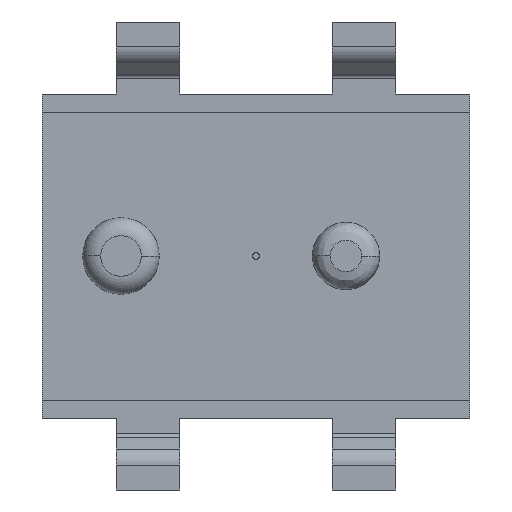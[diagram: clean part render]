
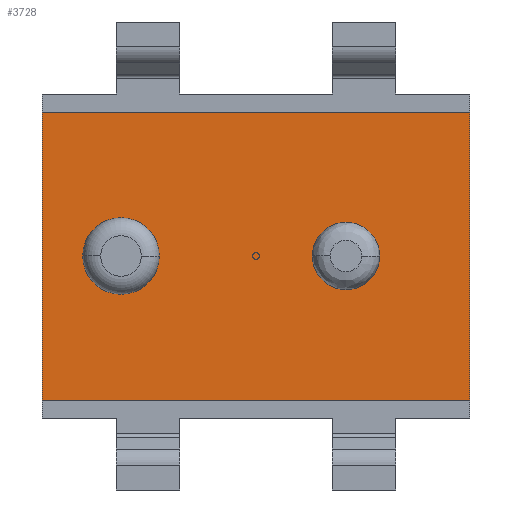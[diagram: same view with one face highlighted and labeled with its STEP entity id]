
A CAD part, front view. The second image highlights one B-rep face of the part: STEP entity #3728.
In plain terms, the highlighted planar face has unit normal (0, -1, 0).
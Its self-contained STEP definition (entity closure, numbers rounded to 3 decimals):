
#1529=DIRECTION('',(1.,0.,0.));
#1530=VECTOR('',#1529,4.75);
#1531=CARTESIAN_POINT('',(-2.375,-2.1,1.6));
#1532=LINE('',#1531,#1530);
#1536=DIRECTION('',(0.,0.,-1.));
#1537=VECTOR('',#1536,3.2);
#1538=CARTESIAN_POINT('',(2.375,-2.1,1.6));
#1539=LINE('',#1538,#1537);
#1543=DIRECTION('',(1.,0.,0.));
#1544=VECTOR('',#1543,4.75);
#1545=CARTESIAN_POINT('',(-2.375,-2.1,-1.6));
#1546=LINE('',#1545,#1544);
#1550=DIRECTION('',(0.,0.,1.));
#1551=VECTOR('',#1550,3.2);
#1552=CARTESIAN_POINT('',(-2.375,-2.1,-1.6));
#1553=LINE('',#1552,#1551);
#1557=CARTESIAN_POINT('',(-1.5,-2.1,0.));
#1558=DIRECTION('',(0.,-1.,0.));
#1559=DIRECTION('',(1.,0.,0.));
#1560=AXIS2_PLACEMENT_3D('',#1557,#1558,#1559);
#1565=CARTESIAN_POINT('',(-1.5,-2.1,0.));
#1566=DIRECTION('',(0.,-1.,0.));
#1567=DIRECTION('',(-1.,0.,0.));
#1568=AXIS2_PLACEMENT_3D('',#1565,#1566,#1567);
#1573=CARTESIAN_POINT('',(1.,-2.1,0.));
#1574=DIRECTION('',(0.,-1.,0.));
#1575=DIRECTION('',(1.,0.,0.));
#1576=AXIS2_PLACEMENT_3D('',#1573,#1574,#1575);
#1581=CARTESIAN_POINT('',(1.,-2.1,0.));
#1582=DIRECTION('',(0.,-1.,0.));
#1583=DIRECTION('',(-1.,0.,0.));
#1584=AXIS2_PLACEMENT_3D('',#1581,#1582,#1583);
#1998=CARTESIAN_POINT('',(-2.375,-2.1,1.6));
#1999=CARTESIAN_POINT('',(2.375,-2.1,1.6));
#2000=VERTEX_POINT('',#1998);
#2001=VERTEX_POINT('',#1999);
#2002=CARTESIAN_POINT('',(-2.375,-2.1,-1.6));
#2003=CARTESIAN_POINT('',(2.375,-2.1,-1.6));
#2004=VERTEX_POINT('',#2002);
#2005=VERTEX_POINT('',#2003);
#2022=CARTESIAN_POINT('',(-1.075,-2.1,0.));
#2023=CARTESIAN_POINT('',(-1.925,-2.1,0.));
#2024=VERTEX_POINT('',#2022);
#2025=VERTEX_POINT('',#2023);
#2026=CARTESIAN_POINT('',(1.375,-2.1,0.));
#2027=CARTESIAN_POINT('',(0.625,-2.1,0.));
#2028=VERTEX_POINT('',#2026);
#2029=VERTEX_POINT('',#2027);
#3703=CARTESIAN_POINT('',(0.,-2.1,0.));
#3704=DIRECTION('',(0.,1.,0.));
#3705=DIRECTION('',(1.,0.,0.));
#3706=AXIS2_PLACEMENT_3D('',#3703,#3704,#3705);
#3707=PLANE('',#3706);
#3709=ORIENTED_EDGE('',*,*,#3708,.T.);
#3710=ORIENTED_EDGE('',*,*,#3682,.T.);
#3711=ORIENTED_EDGE('',*,*,#3694,.F.);
#3713=ORIENTED_EDGE('',*,*,#3712,.T.);
#3714=EDGE_LOOP('',(#3709,#3710,#3711,#3713));
#3715=FACE_OUTER_BOUND('',#3714,.F.);
#3717=ORIENTED_EDGE('',*,*,#3716,.T.);
#3719=ORIENTED_EDGE('',*,*,#3718,.T.);
#3720=EDGE_LOOP('',(#3717,#3719));
#3721=FACE_BOUND('',#3720,.F.);
#3723=ORIENTED_EDGE('',*,*,#3722,.T.);
#3725=ORIENTED_EDGE('',*,*,#3724,.T.);
#3726=EDGE_LOOP('',(#3723,#3725));
#3727=FACE_BOUND('',#3726,.F.);
#1561=CIRCLE('',#1560,0.425);
#1569=CIRCLE('',#1568,0.425);
#1577=CIRCLE('',#1576,0.375);
#1585=CIRCLE('',#1584,0.375);
#3682=EDGE_CURVE('',#2001,#2005,#1539,.T.);
#3694=EDGE_CURVE('',#2004,#2005,#1546,.T.);
#3708=EDGE_CURVE('',#2000,#2001,#1532,.T.);
#3712=EDGE_CURVE('',#2004,#2000,#1553,.T.);
#3716=EDGE_CURVE('',#2024,#2025,#1561,.T.);
#3718=EDGE_CURVE('',#2025,#2024,#1569,.T.);
#3722=EDGE_CURVE('',#2028,#2029,#1577,.T.);
#3724=EDGE_CURVE('',#2029,#2028,#1585,.T.);
#3728=ADVANCED_FACE('',(#3715,#3721,#3727),#3707,.F.);
